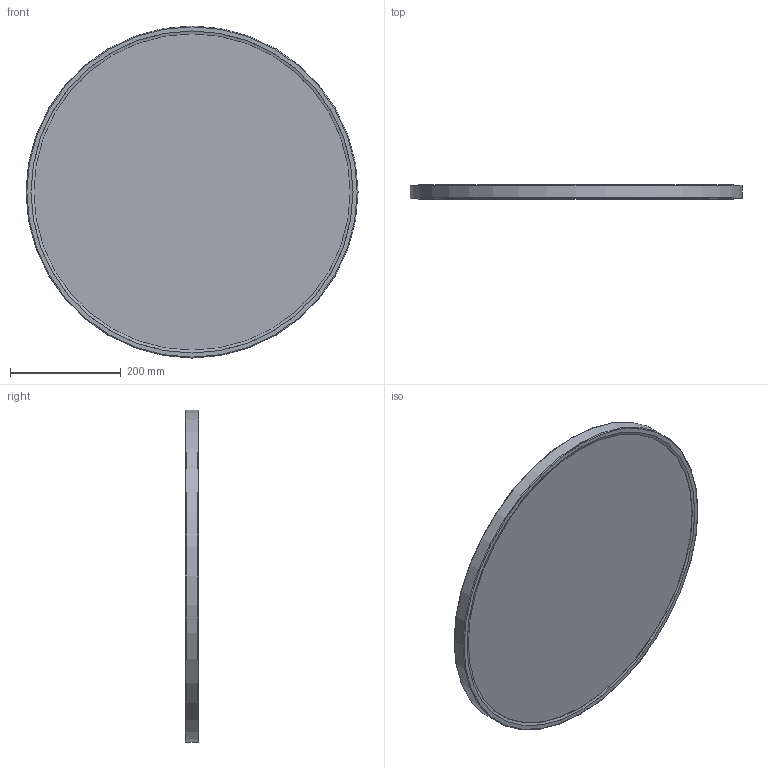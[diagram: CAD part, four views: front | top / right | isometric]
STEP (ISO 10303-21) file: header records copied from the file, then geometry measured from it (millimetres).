
FILE_DESCRIPTION (( 'STEP AP214' ), '1' );
FILE_NAME ('KOE-P3852372.STEP', '2026-01-14T09:35:28', ( '' ), ( '' ), 'SwSTEP 2.0', 'SolidWorks 2025', '' );
FILE_SCHEMA (( 'AUTOMOTIVE_DESIGN' ));
Length unit declared in the file: millimetre
Products named in the file (4): PLETINA^KOE_CONFIGURABLE; DIFUSOR^KOE_CONFIGURABLE; CUERPO^KOE_CONFIGURABLE_Ø600; KOE-P3852372
Assembly tree (3 placements, depth 2):
  KOE-P3852372
    CUERPO^KOE_CONFIGURABLE_Ø600
    PLETINA^KOE_CONFIGURABLE
    DIFUSOR^KOE_CONFIGURABLE
Bounding box: 600 x 25 x 600 mm (x, y, z)
Volume: 1273888.8 mm3; surface area: 1408619 mm2
Topology: 3 solids, 3 shells, 649 faces, 1577 edges, 941 vertices
Faces by surface type: cylinder 267, torus 247, plane 134, cone 1
Full cylindrical faces by diameter (mm): 58 x1, 370 x1, 379 x1, 383 x1, 388 x1, 390 x1, 394 x1, 572 x1, 592 x1, 596 x1, 600 x1
Entity records: 19195 total; most frequent: DIRECTION 3822, CARTESIAN_POINT 3135, ORIENTED_EDGE 3096, AXIS2_PLACEMENT_3D 1619, EDGE_CURVE 1548, CIRCLE 964, VERTEX_POINT 932, EDGE_LOOP 750
